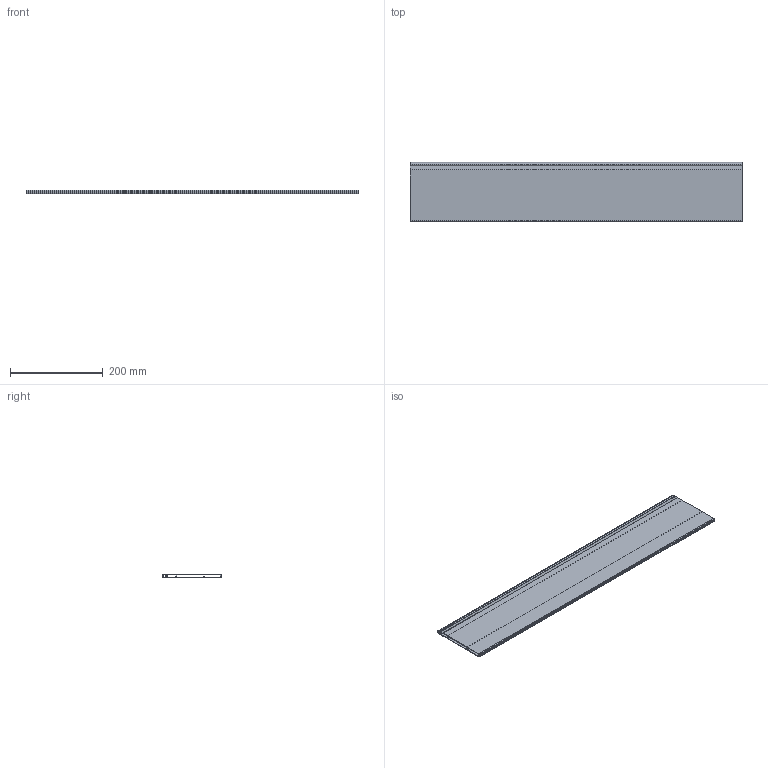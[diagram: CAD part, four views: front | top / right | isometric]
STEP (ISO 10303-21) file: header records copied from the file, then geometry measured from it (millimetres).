
FILE_DESCRIPTION (( 'STEP AP214' ), '1' );
FILE_NAME ('_Magic Optima Unterteilungsprofil DWD XP KAB 850.step', '2010-08-17T12:26:40', ( 'grass' ), ( '' ), 'SwSTEP 2.0', 'SolidWorks 2010', '' );
FILE_SCHEMA (( 'AUTOMOTIVE_DESIGN' ));
Length unit declared in the file: millimetre
Products named in the file (1): _Magic Optima Unterteilungsprofil DWD XP  KAB 850
Bounding box: 716 x 127.7 x 8.1 mm (x, y, z)
Volume: 250974.8 mm3; surface area: 388915.3 mm2
Topology: 1 solids, 1 shells, 39 faces, 111 edges, 74 vertices
Faces by surface type: plane 22, cylinder 17
Entity records: 1325 total; most frequent: CARTESIAN_POINT 225, DIRECTION 225, ORIENTED_EDGE 222, EDGE_CURVE 111, LINE 77, VECTOR 77, AXIS2_PLACEMENT_3D 74, VERTEX_POINT 74
